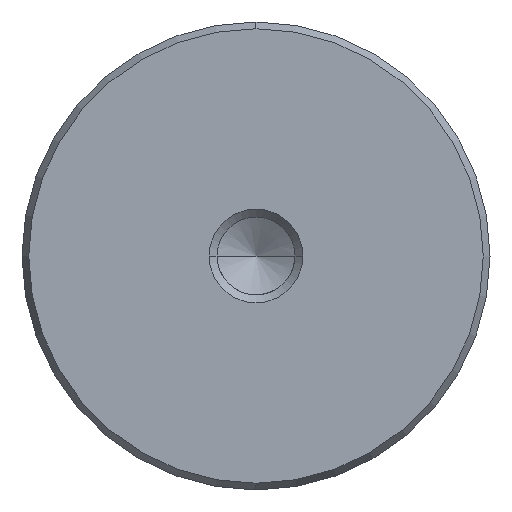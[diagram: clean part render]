
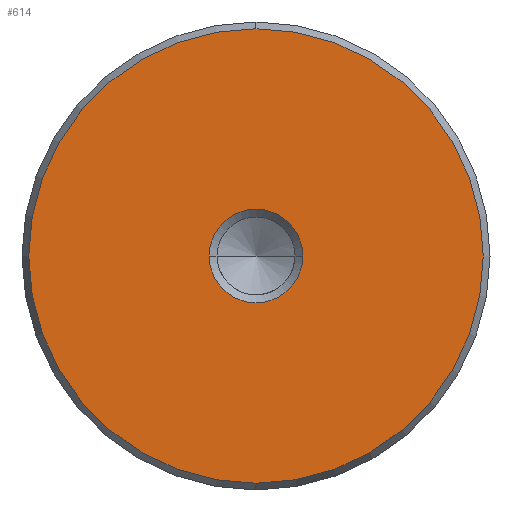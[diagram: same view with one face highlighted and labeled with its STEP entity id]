
A CAD part, left-side view. The second image highlights one B-rep face of the part: STEP entity #614.
In plain terms, the highlighted planar face has unit normal (-1, 0, 0).
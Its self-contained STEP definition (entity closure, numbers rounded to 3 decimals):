
#528=CARTESIAN_POINT('Vertex',(0.,0.,-19.423)) ;
#531=CARTESIAN_POINT('Axis2P3D Location',(0.,0.,0.)) ;
#535=CARTESIAN_POINT('Vertex',(0.,19.423,0.)) ;
#538=CARTESIAN_POINT('Axis2P3D Location',(0.,0.,0.)) ;
#542=CARTESIAN_POINT('Vertex',(0.,0.,19.423)) ;
#564=CARTESIAN_POINT('Axis2P3D Location',(0.,0.,0.)) ;
#568=CARTESIAN_POINT('Vertex',(0.,-19.423,0.)) ;
#571=CARTESIAN_POINT('Axis2P3D Location',(0.,0.,0.)) ;
#585=CARTESIAN_POINT('Axis2P3D Location',(0.,0.,0.)) ;
#596=CARTESIAN_POINT('Axis2P3D Location',(0.,0.,0.)) ;
#600=CARTESIAN_POINT('Vertex',(0.,4.,0.)) ;
#602=CARTESIAN_POINT('Vertex',(0.,-4.,0.)) ;
#605=CARTESIAN_POINT('Axis2P3D Location',(0.,0.,0.)) ;
#532=DIRECTION('Axis2P3D Direction',(1.,0.,-0.)) ;
#539=DIRECTION('Axis2P3D Direction',(1.,0.,-0.)) ;
#565=DIRECTION('Axis2P3D Direction',(1.,0.,-0.)) ;
#572=DIRECTION('Axis2P3D Direction',(1.,0.,-0.)) ;
#586=DIRECTION('Axis2P3D Direction',(1.,0.,-0.)) ;
#587=DIRECTION('Axis2P3D XDirection',(-0.,0.,-1.)) ;
#597=DIRECTION('Axis2P3D Direction',(1.,0.,-0.)) ;
#606=DIRECTION('Axis2P3D Direction',(1.,0.,-0.)) ;
#533=AXIS2_PLACEMENT_3D('Circle Axis2P3D',#531,#532,$) ;
#540=AXIS2_PLACEMENT_3D('Circle Axis2P3D',#538,#539,$) ;
#566=AXIS2_PLACEMENT_3D('Circle Axis2P3D',#564,#565,$) ;
#573=AXIS2_PLACEMENT_3D('Circle Axis2P3D',#571,#572,$) ;
#588=AXIS2_PLACEMENT_3D('Plane Axis2P3D',#585,#586,#587) ;
#598=AXIS2_PLACEMENT_3D('Circle Axis2P3D',#596,#597,$) ;
#607=AXIS2_PLACEMENT_3D('Circle Axis2P3D',#605,#606,$) ;
#591=ORIENTED_EDGE('',*,*,#537,.F.) ;
#592=ORIENTED_EDGE('',*,*,#575,.F.) ;
#593=ORIENTED_EDGE('',*,*,#570,.F.) ;
#594=ORIENTED_EDGE('',*,*,#544,.F.) ;
#611=ORIENTED_EDGE('',*,*,#604,.T.) ;
#612=ORIENTED_EDGE('',*,*,#609,.T.) ;
#613=FACE_BOUND('',#610,.T.) ;
#614=ADVANCED_FACE('720-40x200',(#595,#613),#589,.F.) ;
#534=CIRCLE('generated circle',#533,19.423) ;
#541=CIRCLE('generated circle',#540,19.423) ;
#567=CIRCLE('generated circle',#566,19.423) ;
#574=CIRCLE('generated circle',#573,19.423) ;
#599=CIRCLE('generated circle',#598,4.) ;
#608=CIRCLE('generated circle',#607,4.) ;
#537=EDGE_CURVE('',#529,#536,#534,.T.) ;
#544=EDGE_CURVE('',#536,#543,#541,.T.) ;
#570=EDGE_CURVE('',#543,#569,#567,.T.) ;
#575=EDGE_CURVE('',#569,#529,#574,.T.) ;
#604=EDGE_CURVE('',#601,#603,#599,.T.) ;
#609=EDGE_CURVE('',#603,#601,#608,.T.) ;
#590=EDGE_LOOP('',(#591,#592,#593,#594)) ;
#610=EDGE_LOOP('',(#611,#612)) ;
#595=FACE_OUTER_BOUND('',#590,.T.) ;
#589=PLANE('Plane',#588) ;
#529=VERTEX_POINT('',#528) ;
#536=VERTEX_POINT('',#535) ;
#543=VERTEX_POINT('',#542) ;
#569=VERTEX_POINT('',#568) ;
#601=VERTEX_POINT('',#600) ;
#603=VERTEX_POINT('',#602) ;
